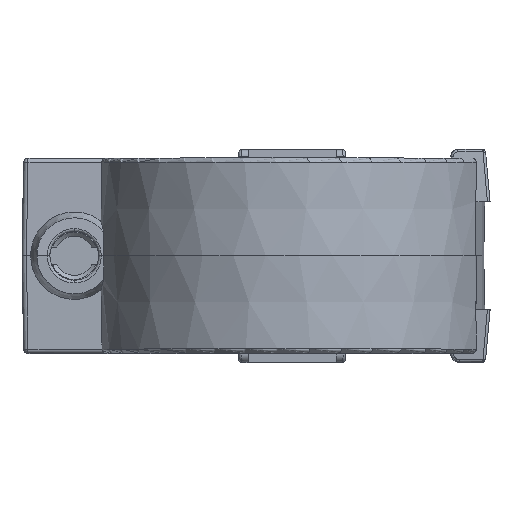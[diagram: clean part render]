
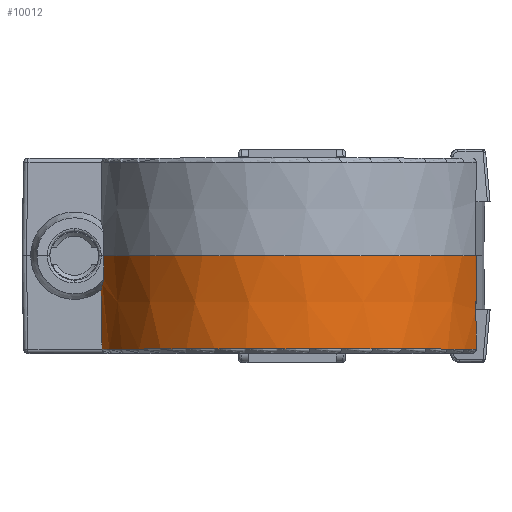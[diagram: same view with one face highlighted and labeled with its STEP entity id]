
A CAD part, top view. The second image highlights one B-rep face of the part: STEP entity #10012.
In plain terms, the highlighted conical face has half-angle 1 degrees and reference radius 22.107 mm.
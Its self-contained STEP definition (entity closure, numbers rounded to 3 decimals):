
#2854=CARTESIAN_POINT('',(0.,0.,0.));
#2855=DIRECTION('',(0.,1.,0.));
#2856=DIRECTION('',(0.947,0.,0.322));
#2857=AXIS2_PLACEMENT_3D('',#2854,#2855,#2856);
#3526=CARTESIAN_POINT('',(0.,0.,0.));
#3527=DIRECTION('',(0.,1.,0.));
#3528=DIRECTION('',(-0.974,0.,0.225));
#3529=AXIS2_PLACEMENT_3D('',#3526,#3527,#3528);
#3560=CARTESIAN_POINT('',(21.12,-10.709,6.206));
#3561=CARTESIAN_POINT('',(21.109,-9.206,6.337));
#3562=CARTESIAN_POINT('',(21.097,-7.703,6.469));
#3563=CARTESIAN_POINT('',(21.083,-6.2,6.6));
#3565=CARTESIAN_POINT('',(-21.927,-3.944,3.));
#3566=CARTESIAN_POINT('',(-21.914,-4.696,3.));
#3567=CARTESIAN_POINT('',(-21.887,-6.198,3.));
#3568=CARTESIAN_POINT('',(-21.847,-8.45,3.));
#3569=CARTESIAN_POINT('',(-21.821,-9.95,3.));
#3570=CARTESIAN_POINT('',(-21.808,-10.7,3.));
#3572=CARTESIAN_POINT('',(-21.63,0.,5.));
#3573=CARTESIAN_POINT('',(-21.624,-0.896,
4.953));
#3574=CARTESIAN_POINT('',(-21.619,-1.792,
4.906));
#3575=CARTESIAN_POINT('',(-21.614,-2.688,
4.859));
#3581=DIRECTION('',(-0.017,-1.,-0.005));
#3582=VECTOR('',#3581,6.201);
#3583=CARTESIAN_POINT('',(21.186,0.,
6.632));
#3584=LINE('',#3583,#3582);
#3669=CARTESIAN_POINT('',(0.,-10.709,0.));
#3670=DIRECTION('',(0.,-1.,0.));
#3671=DIRECTION('',(0.959,0.,0.282));
#3672=AXIS2_PLACEMENT_3D('',#3669,#3670,#3671);
#3691=CARTESIAN_POINT('',(-21.808,-10.709,
3.));
#3692=CARTESIAN_POINT('',(-21.808,-10.708,
3.));
#3693=CARTESIAN_POINT('',(-21.808,-10.706,
3.));
#3694=CARTESIAN_POINT('',(-21.808,-10.703,
3.));
#3695=CARTESIAN_POINT('',(-21.808,-10.701,3.));
#3696=CARTESIAN_POINT('',(-21.808,-10.7,3.));
#4622=CARTESIAN_POINT('',(-21.927,-3.944,3.));
#4623=CARTESIAN_POINT('',(-21.896,-3.807,
3.245));
#4624=CARTESIAN_POINT('',(-21.829,-3.531,
3.71));
#4625=CARTESIAN_POINT('',(-21.721,-3.113,
4.329));
#4626=CARTESIAN_POINT('',(-21.649,-2.831,
4.691));
#4627=CARTESIAN_POINT('',(-21.614,-2.688,
4.859));
#6729=VERTEX_POINT('',#4622);
#6730=VERTEX_POINT('',#4627);
#6731=CARTESIAN_POINT('',(21.186,0.,
6.632));
#6732=CARTESIAN_POINT('',(21.083,-6.2,6.6));
#6733=VERTEX_POINT('',#6731);
#6734=VERTEX_POINT('',#6732);
#6735=VERTEX_POINT('',#3560);
#6736=CARTESIAN_POINT('',(-21.808,-10.709,
3.));
#6737=VERTEX_POINT('',#6736);
#6738=VERTEX_POINT('',#3696);
#7132=CARTESIAN_POINT('',(-21.63,0.,5.));
#7133=VERTEX_POINT('',#7132);
#7138=CARTESIAN_POINT('',(21.02,0.,
7.142));
#7139=VERTEX_POINT('',#7138);
#9989=CARTESIAN_POINT('',(0.,-5.354,0.));
#9990=DIRECTION('',(0.,1.,0.));
#9991=DIRECTION('',(1.,0.,0.));
#9992=AXIS2_PLACEMENT_3D('',#9989,#9990,#9991);
#9993=CONICAL_SURFACE('',#9992,22.107,1.);
#9994=ORIENTED_EDGE('',*,*,#9973,.T.);
#9995=ORIENTED_EDGE('',*,*,#9020,.T.);
#9997=ORIENTED_EDGE('',*,*,#9996,.T.);
#9999=ORIENTED_EDGE('',*,*,#9998,.F.);
#10001=ORIENTED_EDGE('',*,*,#10000,.T.);
#10003=ORIENTED_EDGE('',*,*,#10002,.T.);
#10005=ORIENTED_EDGE('',*,*,#10004,.F.);
#10007=ORIENTED_EDGE('',*,*,#10006,.T.);
#10009=ORIENTED_EDGE('',*,*,#10008,.F.);
#10010=EDGE_LOOP('',(#9994,#9995,#9997,#9999,#10001,#10003,#10005,#10007,
#10009));
#10011=FACE_OUTER_BOUND('',#10010,.F.);
#2858=CIRCLE('',#2857,22.2);
#3530=CIRCLE('',#3529,22.2);
#3564=B_SPLINE_CURVE_WITH_KNOTS('',3,(#3560,#3561,#3562,#3563),.UNSPECIFIED.,
.F.,.F.,(4,4),(0.,1.),.UNSPECIFIED.);
#3571=B_SPLINE_CURVE_WITH_KNOTS('',3,(#3565,#3566,#3567,#3568,#3569,#3570),
.UNSPECIFIED.,.F.,.F.,(4,1,1,4),(0.,0.333,0.667,1.),
.UNSPECIFIED.);
#3576=B_SPLINE_CURVE_WITH_KNOTS('',3,(#3572,#3573,#3574,#3575),.UNSPECIFIED.,
.F.,.F.,(4,4),(0.,1.),.UNSPECIFIED.);
#3673=CIRCLE('',#3672,22.013);
#3697=B_SPLINE_CURVE_WITH_KNOTS('',3,(#3691,#3692,#3693,#3694,#3695,#3696),
.UNSPECIFIED.,.F.,.F.,(4,1,1,4),(0.,0.333,0.667,1.),
.UNSPECIFIED.);
#4628=B_SPLINE_CURVE_WITH_KNOTS('',3,(#4622,#4623,#4624,#4625,#4626,#4627),
.UNSPECIFIED.,.F.,.F.,(4,1,1,4),(0.,0.333,0.667,1.),
.UNSPECIFIED.);
#9020=EDGE_CURVE('',#7139,#6733,#2858,.T.);
#9973=EDGE_CURVE('',#7133,#7139,#3530,.T.);
#9996=EDGE_CURVE('',#6733,#6734,#3584,.T.);
#9998=EDGE_CURVE('',#6735,#6734,#3564,.T.);
#10000=EDGE_CURVE('',#6735,#6737,#3673,.T.);
#10002=EDGE_CURVE('',#6737,#6738,#3697,.T.);
#10004=EDGE_CURVE('',#6729,#6738,#3571,.T.);
#10006=EDGE_CURVE('',#6729,#6730,#4628,.T.);
#10008=EDGE_CURVE('',#7133,#6730,#3576,.T.);
#10012=ADVANCED_FACE('',(#10011),#9993,.T.);
